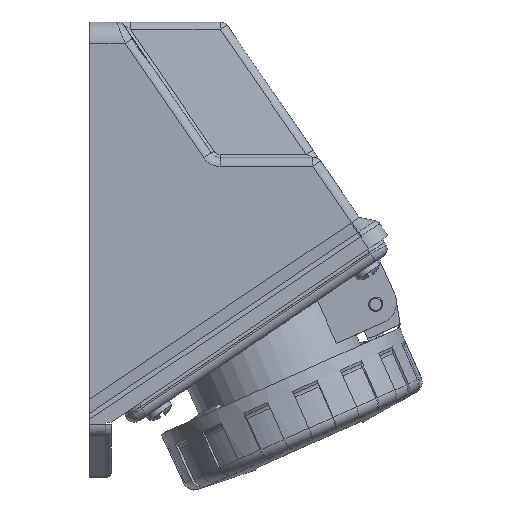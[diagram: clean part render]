
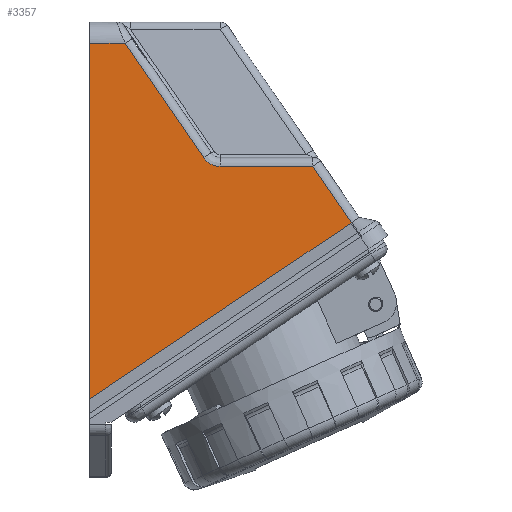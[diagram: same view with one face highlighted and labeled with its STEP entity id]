
A CAD part, front view. The second image highlights one B-rep face of the part: STEP entity #3357.
In plain terms, the highlighted planar face has unit normal (-0.005, -1, 0.007).
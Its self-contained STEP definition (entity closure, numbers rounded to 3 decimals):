
#497=ELLIPSE('',#10390,5.5,5.5);
#3357=ADVANCED_FACE('',(#3842),#3634,.F.);
#3634=PLANE('',#10527);
#3842=FACE_OUTER_BOUND('',#4192,.T.);
#4192=EDGE_LOOP('',(#5507,#5508,#5509,#5510,#5511,#5512,#5513,#5514));
#5507=ORIENTED_EDGE('',*,*,#8283,.T.);
#5508=ORIENTED_EDGE('',*,*,#8108,.F.);
#5509=ORIENTED_EDGE('',*,*,#8303,.F.);
#5510=ORIENTED_EDGE('',*,*,#8124,.T.);
#5511=ORIENTED_EDGE('',*,*,#8304,.F.);
#5512=ORIENTED_EDGE('',*,*,#8305,.T.);
#5513=ORIENTED_EDGE('',*,*,#8306,.F.);
#5514=ORIENTED_EDGE('',*,*,#8300,.F.);
#7132=VERTEX_POINT('',#14191);
#7139=VERTEX_POINT('',#14288);
#7140=VERTEX_POINT('',#14289);
#7144=VERTEX_POINT('',#14309);
#7155=VERTEX_POINT('',#14355);
#7265=VERTEX_POINT('',#14871);
#7270=VERTEX_POINT('',#14931);
#7271=VERTEX_POINT('',#14933);
#8108=EDGE_CURVE('',#7139,#7140,#497,.T.);
#8124=EDGE_CURVE('',#7144,#7155,#9259,.T.);
#8283=EDGE_CURVE('',#7265,#7140,#9338,.T.);
#8300=EDGE_CURVE('',#7265,#7132,#9349,.T.);
#8303=EDGE_CURVE('',#7144,#7139,#9351,.T.);
#8304=EDGE_CURVE('',#7270,#7155,#9352,.T.);
#8305=EDGE_CURVE('',#7270,#7271,#9353,.T.);
#8306=EDGE_CURVE('',#7132,#7271,#9354,.T.);
#9259=LINE('',#14354,#9802);
#9338=LINE('',#14870,#9881);
#9349=LINE('',#14924,#9892);
#9351=LINE('',#14929,#9894);
#9352=LINE('',#14930,#9895);
#9353=LINE('',#14932,#9896);
#9354=LINE('',#14934,#9897);
#9802=VECTOR('',#11592,1.);
#9881=VECTOR('',#11893,1.);
#9892=VECTOR('',#11920,1.);
#9894=VECTOR('',#11928,1.);
#9895=VECTOR('',#11929,1.);
#9896=VECTOR('',#11930,1.);
#9897=VECTOR('',#11931,1.);
#10390=AXIS2_PLACEMENT_3D('',#14287,#11560,#11561);
#10527=AXIS2_PLACEMENT_3D('',#14935,#11932,#11933);
#11560=DIRECTION('',(-0.005,-1.,0.007));
#11561=DIRECTION('',(0.559,-0.009,-0.829));
#11592=DIRECTION('',(-1.,0.005,0.));
#11893=DIRECTION('',(-1.,0.005,0.));
#11920=DIRECTION('',(0.566,-0.009,-0.824));
#11928=DIRECTION('',(0.566,-0.009,-0.824));
#11929=DIRECTION('',(0.,0.007,1.));
#11930=DIRECTION('',(0.829,0.,0.559));
#11931=DIRECTION('',(-0.829,0.,-0.559));
#11932=DIRECTION('',(0.005,1.,-0.007));
#11933=DIRECTION('',(-1.,0.005,0.));
#14191=CARTESIAN_POINT('',(53.869,-42.31,-24.546));
#14287=CARTESIAN_POINT('',(17.229,-41.977,-3.326));
#14288=CARTESIAN_POINT('',(12.696,-41.978,-6.441));
#14289=CARTESIAN_POINT('',(17.229,-42.017,-8.826));
#14309=CARTESIAN_POINT('',(-9.217,-41.64,25.443));
#14354=CARTESIAN_POINT('',(-9.217,-41.64,25.443));
#14355=CARTESIAN_POINT('',(-19.088,-41.592,25.443));
#14870=CARTESIAN_POINT('',(43.065,-42.143,-8.826));
#14871=CARTESIAN_POINT('',(43.065,-42.143,-8.826));
#14924=CARTESIAN_POINT('',(43.065,-42.143,-8.826));
#14929=CARTESIAN_POINT('',(-9.217,-41.64,25.443));
#14930=CARTESIAN_POINT('',(-19.088,-42.31,-73.756));
#14931=CARTESIAN_POINT('',(-19.088,-42.31,-73.756));
#14932=CARTESIAN_POINT('',(-19.088,-42.31,-73.756));
#14933=CARTESIAN_POINT('',(53.755,-42.31,-24.623));
#14934=CARTESIAN_POINT('',(53.869,-42.31,-24.546));
#14935=CARTESIAN_POINT('',(-19.099,-41.549,31.41));
